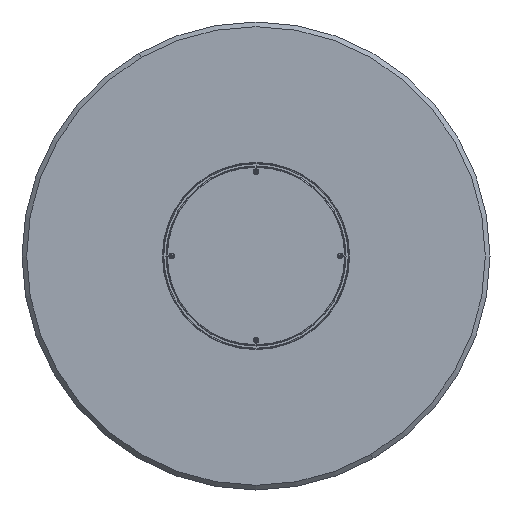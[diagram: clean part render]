
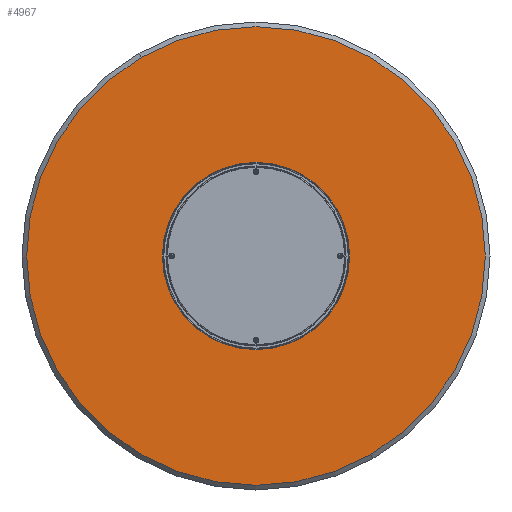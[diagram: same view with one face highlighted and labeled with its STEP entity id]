
A CAD part, front view. The second image highlights one B-rep face of the part: STEP entity #4967.
In plain terms, the highlighted planar face has unit normal (0, -1, 0).
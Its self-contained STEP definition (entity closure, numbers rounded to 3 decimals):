
#22 = CARTESIAN_POINT ( 'NONE',  ( -95., 0., -54.848 ) ) ;
#103 = CARTESIAN_POINT ( 'NONE',  ( -95., 0., -58.248 ) ) ;
#104 = VERTEX_POINT ( 'NONE', #1196 ) ;
#107 = AXIS2_PLACEMENT_3D ( 'NONE', #2831, #4990, #3275 ) ;
#223 = VERTEX_POINT ( 'NONE', #4462 ) ;
#312 = AXIS2_PLACEMENT_3D ( 'NONE', #4193, #644, #2858 ) ;
#346 = EDGE_CURVE ( 'NONE', #3274, #223, #1093, .T. ) ;
#353 = DIRECTION ( 'NONE',  ( 0., 0., -1. ) ) ;
#358 = DIRECTION ( 'NONE',  ( 0., -1., 0. ) ) ;
#361 = DIRECTION ( 'NONE',  ( 0., 0., -1. ) ) ;
#547 = AXIS2_PLACEMENT_3D ( 'NONE', #22, #1862, #5442 ) ;
#602 = VERTEX_POINT ( 'NONE', #5332 ) ;
#644 = DIRECTION ( 'NONE',  ( 0., -1., 0. ) ) ;
#892 = DIRECTION ( 'NONE',  ( 0., 0., -1. ) ) ;
#932 = DIRECTION ( 'NONE',  ( 0., -1., 0. ) ) ;
#1036 = DIRECTION ( 'NONE',  ( 0., 0., -1. ) ) ;
#1056 = CARTESIAN_POINT ( 'NONE',  ( 0., 0., 490. ) ) ;
#1065 = DIRECTION ( 'NONE',  ( 0., -1., 0. ) ) ;
#1093 = CIRCLE ( 'NONE', #2625, 3.4 ) ;
#1136 = CIRCLE ( 'NONE', #5595, 3.4 ) ;
#1155 = EDGE_CURVE ( 'NONE', #4531, #5520, #3655, .T. ) ;
#1164 = ORIENTED_EDGE ( 'NONE', *, *, #4826, .F. ) ;
#1196 = CARTESIAN_POINT ( 'NONE',  ( 0., 0., 113.097 ) ) ;
#1309 = DIRECTION ( 'NONE',  ( 0., -1., 0. ) ) ;
#1415 = EDGE_CURVE ( 'NONE', #104, #1582, #1813, .T. ) ;
#1483 = EDGE_LOOP ( 'NONE', ( #3319, #2675 ) ) ;
#1576 = DIRECTION ( 'NONE',  ( 0., -1., 0. ) ) ;
#1582 = VERTEX_POINT ( 'NONE', #5140 ) ;
#1643 = VERTEX_POINT ( 'NONE', #1056 ) ;
#1813 = CIRCLE ( 'NONE', #3152, 3.4 ) ;
#1822 = ORIENTED_EDGE ( 'NONE', *, *, #2435, .F. ) ;
#1828 = ORIENTED_EDGE ( 'NONE', *, *, #3380, .F. ) ;
#1862 = DIRECTION ( 'NONE',  ( 0., -1., 0. ) ) ;
#2125 = VERTEX_POINT ( 'NONE', #2128 ) ;
#2128 = CARTESIAN_POINT ( 'NONE',  ( 0., 0., -490. ) ) ;
#2178 = EDGE_LOOP ( 'NONE', ( #1822, #4436 ) ) ;
#2310 = AXIS2_PLACEMENT_3D ( 'NONE', #3781, #1065, #1036 ) ;
#2328 = DIRECTION ( 'NONE',  ( 0., -1., 0. ) ) ;
#2355 = EDGE_CURVE ( 'NONE', #5684, #602, #3324, .T. ) ;
#2435 = EDGE_CURVE ( 'NONE', #5520, #4531, #1136, .T. ) ;
#2595 = AXIS2_PLACEMENT_3D ( 'NONE', #5428, #1309, #353 ) ;
#2625 = AXIS2_PLACEMENT_3D ( 'NONE', #2746, #4546, #4604 ) ;
#2638 = CARTESIAN_POINT ( 'NONE',  ( 0., 0., 0. ) ) ;
#2675 = ORIENTED_EDGE ( 'NONE', *, *, #4707, .T. ) ;
#2746 = CARTESIAN_POINT ( 'NONE',  ( 95., 0., -54.848 ) ) ;
#2780 = ORIENTED_EDGE ( 'NONE', *, *, #2355, .F. ) ;
#2831 = CARTESIAN_POINT ( 'NONE',  ( 95., 0., -54.848 ) ) ;
#2858 = DIRECTION ( 'NONE',  ( 0., 0., -1. ) ) ;
#2930 = EDGE_LOOP ( 'NONE', ( #1828, #3301 ) ) ;
#2956 = FACE_BOUND ( 'NONE', #3129, .T. ) ;
#3118 = CARTESIAN_POINT ( 'NONE',  ( 0., 0., -3.4 ) ) ;
#3129 = EDGE_LOOP ( 'NONE', ( #1164, #3867 ) ) ;
#3152 = AXIS2_PLACEMENT_3D ( 'NONE', #5406, #2328, #5052 ) ;
#3246 = DIRECTION ( 'NONE',  ( 0., -1., 0. ) ) ;
#3252 = CIRCLE ( 'NONE', #2595, 3.4 ) ;
#3271 = EDGE_CURVE ( 'NONE', #602, #5684, #3252, .T. ) ;
#3274 = VERTEX_POINT ( 'NONE', #4518 ) ;
#3275 = DIRECTION ( 'NONE',  ( 0., 0., -1. ) ) ;
#3301 = ORIENTED_EDGE ( 'NONE', *, *, #1415, .F. ) ;
#3319 = ORIENTED_EDGE ( 'NONE', *, *, #3621, .T. ) ;
#3324 = CIRCLE ( 'NONE', #547, 3.4 ) ;
#3380 = EDGE_CURVE ( 'NONE', #1582, #104, #5431, .T. ) ;
#3395 = FACE_BOUND ( 'NONE', #2930, .T. ) ;
#3485 = CARTESIAN_POINT ( 'NONE',  ( 0., 0., 0. ) ) ;
#3621 = EDGE_CURVE ( 'NONE', #1643, #2125, #5718, .T. ) ;
#3647 = CIRCLE ( 'NONE', #107, 3.4 ) ;
#3655 = CIRCLE ( 'NONE', #4980, 3.4 ) ;
#3781 = CARTESIAN_POINT ( 'NONE',  ( 0., 0., 109.697 ) ) ;
#3807 = FACE_BOUND ( 'NONE', #2178, .T. ) ;
#3867 = ORIENTED_EDGE ( 'NONE', *, *, #346, .F. ) ;
#4193 = CARTESIAN_POINT ( 'NONE',  ( 0., 0., 0. ) ) ;
#4312 = PLANE ( 'NONE',  #312 ) ;
#4402 = EDGE_LOOP ( 'NONE', ( #2780, #4514 ) ) ;
#4436 = ORIENTED_EDGE ( 'NONE', *, *, #1155, .F. ) ;
#4462 = CARTESIAN_POINT ( 'NONE',  ( 95., 0., -58.248 ) ) ;
#4514 = ORIENTED_EDGE ( 'NONE', *, *, #3271, .F. ) ;
#4518 = CARTESIAN_POINT ( 'NONE',  ( 95., 0., -51.448 ) ) ;
#4531 = VERTEX_POINT ( 'NONE', #5293 ) ;
#4546 = DIRECTION ( 'NONE',  ( 0., -1., 0. ) ) ;
#4604 = DIRECTION ( 'NONE',  ( 0., 0., -1. ) ) ;
#4707 = EDGE_CURVE ( 'NONE', #2125, #1643, #5157, .T. ) ;
#4723 = FACE_BOUND ( 'NONE', #4402, .T. ) ;
#4826 = EDGE_CURVE ( 'NONE', #223, #3274, #3647, .T. ) ;
#4880 = DIRECTION ( 'NONE',  ( 0., 0., -1. ) ) ;
#4908 = CARTESIAN_POINT ( 'NONE',  ( 0., 0., 0. ) ) ;
#4967 = ADVANCED_FACE ( 'NONE', ( #4723, #2956, #3395, #3807, #5231 ), #4312, .T. ) ;
#4980 = AXIS2_PLACEMENT_3D ( 'NONE', #2638, #358, #4880 ) ;
#4990 = DIRECTION ( 'NONE',  ( 0., -1., 0. ) ) ;
#5052 = DIRECTION ( 'NONE',  ( 0., 0., -1. ) ) ;
#5140 = CARTESIAN_POINT ( 'NONE',  ( 0., 0., 106.297 ) ) ;
#5157 = CIRCLE ( 'NONE', #5345, 490. ) ;
#5231 = FACE_OUTER_BOUND ( 'NONE', #1483, .T. ) ;
#5287 = DIRECTION ( 'NONE',  ( 0., 0., -1. ) ) ;
#5293 = CARTESIAN_POINT ( 'NONE',  ( 0., 0., 3.4 ) ) ;
#5332 = CARTESIAN_POINT ( 'NONE',  ( -95., 0., -51.448 ) ) ;
#5340 = AXIS2_PLACEMENT_3D ( 'NONE', #3485, #1576, #5287 ) ;
#5345 = AXIS2_PLACEMENT_3D ( 'NONE', #5876, #3246, #892 ) ;
#5406 = CARTESIAN_POINT ( 'NONE',  ( 0., 0., 109.697 ) ) ;
#5428 = CARTESIAN_POINT ( 'NONE',  ( -95., 0., -54.848 ) ) ;
#5431 = CIRCLE ( 'NONE', #2310, 3.4 ) ;
#5442 = DIRECTION ( 'NONE',  ( 0., 0., -1. ) ) ;
#5520 = VERTEX_POINT ( 'NONE', #3118 ) ;
#5595 = AXIS2_PLACEMENT_3D ( 'NONE', #4908, #932, #361 ) ;
#5684 = VERTEX_POINT ( 'NONE', #103 ) ;
#5718 = CIRCLE ( 'NONE', #5340, 490. ) ;
#5876 = CARTESIAN_POINT ( 'NONE',  ( 0., 0., 0. ) ) ;
